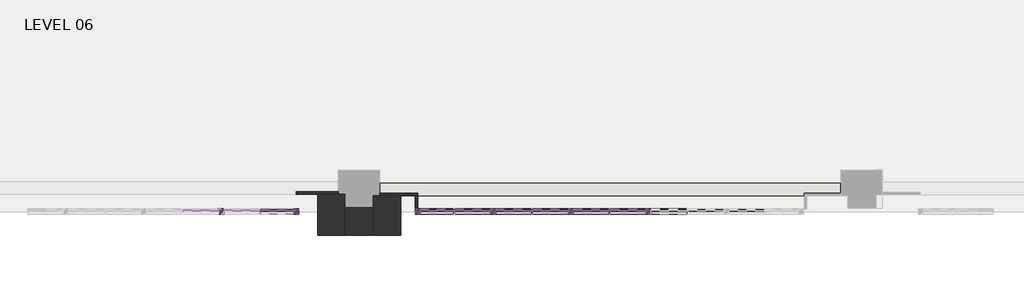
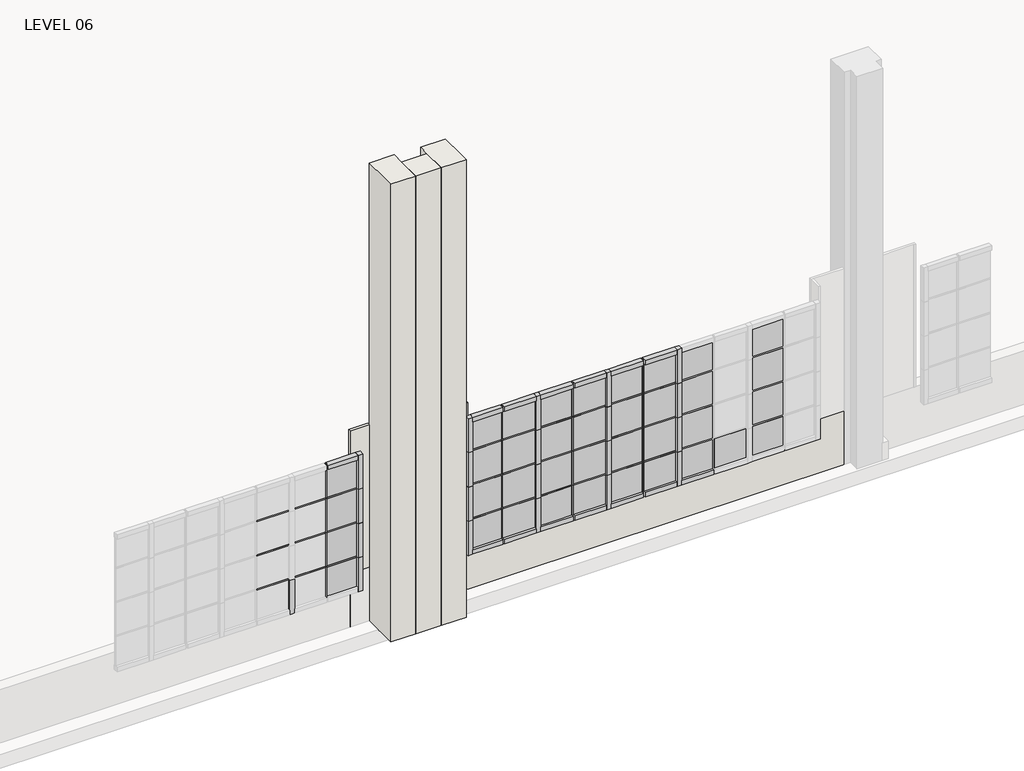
# One storey, part 4 of 16: 78 members, 37 plates, 7 walls.
"""IFC4 building model written with IfcOpenShell, lengths in millimetres."""

from ifc_helpers import new_model, si_unit, frame, origin, place, context, project, spatial, polyline, outline, extrude, faceted_brep, transform, mapped, element, save
from components import member_78bb2ef1, member_cb03ba1c, member_aa53491b, member_c1b5942e, member_9d26962d, member_378e0c06, member_17eb62f4, system_panel_glazed_79ade883, system_panel_glazed_12cc9f41, system_panel_glazed_730530c4, system_panel_glazed_b8d6571b

model = new_model("IFC4")

# Units and contexts
model_context = context("Model", 3, world=origin())
ifc_project = project(units=[si_unit("LENGTHUNIT", "METRE", prefix="MILLI")], contexts=[model_context])

# Site, building, storey
site = spatial("IfcSite", under=ifc_project)
building = spatial("IfcBuilding", under=site)
storey = spatial("IfcBuildingStorey", under=building, Name="LEVEL 06", Elevation=17449.8)

# Members
placement = place(None, origin())
member_shape = member_78bb2ef1(model_context)
element("IfcMember", 1, ObjectType="Rectangular Mullion : 1\" x 1\" - Butt Joint", at=placement, inside=storey, context=model_context, shape_type="MappedRepresentation", body=[
    mapped(member_shape, transform((-24218.0721217, -25119.8112062, 19989.8), x_axis=(1.0, 0.0, 0.0), y_axis=(0.0, -1.0, 0.0), z_axis=(0.0, 0.0, -1.0))),
])
element("IfcMember", 2, ObjectType="Rectangular Mullion : 1\" x 1\" - Butt Joint", at=placement, inside=storey, context=model_context, shape_type="MappedRepresentation", body=[
    mapped(member_shape, transform((-21377.1985758, -25119.8112062, 19989.8), x_axis=(1.0, 0.0, 0.0), y_axis=(0.0, -1.0, 0.0), z_axis=(0.0, 0.0, -1.0))),
])
element("IfcMember", 3, ObjectType="Rectangular Mullion : 1\" x 1\" - Butt Joint", at=placement, inside=storey, context=model_context, shape_type="MappedRepresentation", body=[
    mapped(member_shape, transform((-20239.2785758, -25119.8112062, 19989.8), x_axis=(1.0, 0.0, 0.0), y_axis=(0.0, -1.0, 0.0), z_axis=(0.0, 0.0, -1.0))),
])
element("IfcMember", 4, ObjectType="Rectangular Mullion : 1\" x 1\" - Butt Joint", at=placement, inside=storey, context=model_context, shape_type="MappedRepresentation", body=[
    mapped(member_shape, transform((-19101.3585758, -25119.8112062, 19989.8), x_axis=(1.0, 0.0, 0.0), y_axis=(0.0, -1.0, 0.0), z_axis=(0.0, 0.0, -1.0))),
])
member_2_shape = member_cb03ba1c(model_context)
element("IfcMember", 5, ObjectType="Rectangular Mullion : 1\" x 1\" - Butt Joint", at=placement, inside=storey, context=model_context, shape_type="MappedRepresentation", body=[
    mapped(member_2_shape, transform((-24825.1321217, -25119.8112062, 19989.8), x_axis=(0.0, 0.0, 1.0), y_axis=(0.0, -1.0, 0.0), z_axis=(1.0, 0.0, 0.0))),
])
element("IfcMember", 6, ObjectType="Rectangular Mullion : 1\" x 1\" - Butt Joint", at=placement, inside=storey, context=model_context, shape_type="MappedRepresentation", body=[
    mapped(member_2_shape, transform((-24230.7721217, -25119.8112062, 19989.8), x_axis=(0.0, 0.0, 1.0), y_axis=(0.0, -1.0, 0.0), z_axis=(1.0, 0.0, 0.0))),
])
element("IfcMember", 7, ObjectType="Rectangular Mullion : 1\" x 1\" - Butt Joint", at=placement, inside=storey, context=model_context, shape_type="MappedRepresentation", body=[
    mapped(member_2_shape, transform((-24825.1321217, -25119.8112062, 19405.6), x_axis=(0.0, 0.0, 1.0), y_axis=(0.0, -1.0, 0.0), z_axis=(1.0, 0.0, 0.0))),
])
element("IfcMember", 8, ObjectType="Rectangular Mullion : 1\" x 1\" - Butt Joint", at=placement, inside=storey, context=model_context, shape_type="MappedRepresentation", body=[
    mapped(member_2_shape, transform((-24230.7721217, -25119.8112062, 19405.6), x_axis=(0.0, 0.0, 1.0), y_axis=(0.0, -1.0, 0.0), z_axis=(1.0, 0.0, 0.0))),
])
element("IfcMember", 9, ObjectType="Rectangular Mullion : 1\" x 1\" - Butt Joint", at=placement, inside=storey, context=model_context, shape_type="MappedRepresentation", body=[
    mapped(member_2_shape, transform((-24825.1321217, -25119.8112062, 18821.4), x_axis=(0.0, 0.0, 1.0), y_axis=(0.0, -1.0, 0.0), z_axis=(1.0, 0.0, 0.0))),
])
element("IfcMember", 10, ObjectType="Rectangular Mullion : 1\" x 1\" - Butt Joint", at=placement, inside=storey, context=model_context, shape_type="MappedRepresentation", body=[
    mapped(member_2_shape, transform((-24230.7721217, -25119.8112062, 18821.4), x_axis=(0.0, 0.0, 1.0), y_axis=(0.0, -1.0, 0.0), z_axis=(1.0, 0.0, 0.0))),
])
element("IfcMember", 11, ObjectType="Rectangular Mullion : 1\" x 1\" - Butt Joint", at=placement, inside=storey, context=model_context, shape_type="MappedRepresentation", body=[
    mapped(member_2_shape, transform((-18570.4985758, -25119.8112062, 19989.8), x_axis=(0.0, 0.0, 1.0), y_axis=(0.0, -1.0, 0.0), z_axis=(1.0, 0.0, 0.0))),
])
element("IfcMember", 12, ObjectType="Rectangular Mullion : 1\" x 1\" - Butt Joint", at=placement, inside=storey, context=model_context, shape_type="MappedRepresentation", body=[
    mapped(member_2_shape, transform((-19708.4185758, -25119.8112062, 19989.8), x_axis=(0.0, 0.0, 1.0), y_axis=(0.0, -1.0, 0.0), z_axis=(1.0, 0.0, 0.0))),
])
element("IfcMember", 13, ObjectType="Rectangular Mullion : 1\" x 1\" - Butt Joint", at=placement, inside=storey, context=model_context, shape_type="MappedRepresentation", body=[
    mapped(member_2_shape, transform((-20846.3385758, -25119.8112062, 19989.8), x_axis=(0.0, 0.0, 1.0), y_axis=(0.0, -1.0, 0.0), z_axis=(1.0, 0.0, 0.0))),
])
element("IfcMember", 14, ObjectType="Rectangular Mullion : 1\" x 1\" - Butt Joint", at=placement, inside=storey, context=model_context, shape_type="MappedRepresentation", body=[
    mapped(member_2_shape, transform((-19114.0585758, -25119.8112062, 19989.8), x_axis=(0.0, 0.0, 1.0), y_axis=(0.0, -1.0, 0.0), z_axis=(1.0, 0.0, 0.0))),
])
element("IfcMember", 15, ObjectType="Rectangular Mullion : 1\" x 1\" - Butt Joint", at=placement, inside=storey, context=model_context, shape_type="MappedRepresentation", body=[
    mapped(member_2_shape, transform((-20251.9785758, -25119.8112062, 19989.8), x_axis=(0.0, 0.0, 1.0), y_axis=(0.0, -1.0, 0.0), z_axis=(1.0, 0.0, 0.0))),
])
element("IfcMember", 16, ObjectType="Rectangular Mullion : 1\" x 1\" - Butt Joint", at=placement, inside=storey, context=model_context, shape_type="MappedRepresentation", body=[
    mapped(member_2_shape, transform((-18570.4985758, -25119.8112062, 19405.6), x_axis=(0.0, 0.0, 1.0), y_axis=(0.0, -1.0, 0.0), z_axis=(1.0, 0.0, 0.0))),
])
element("IfcMember", 17, ObjectType="Rectangular Mullion : 1\" x 1\" - Butt Joint", at=placement, inside=storey, context=model_context, shape_type="MappedRepresentation", body=[
    mapped(member_2_shape, transform((-19708.4185758, -25119.8112062, 19405.6), x_axis=(0.0, 0.0, 1.0), y_axis=(0.0, -1.0, 0.0), z_axis=(1.0, 0.0, 0.0))),
])
element("IfcMember", 18, ObjectType="Rectangular Mullion : 1\" x 1\" - Butt Joint", at=placement, inside=storey, context=model_context, shape_type="MappedRepresentation", body=[
    mapped(member_2_shape, transform((-20846.3385758, -25119.8112062, 19405.6), x_axis=(0.0, 0.0, 1.0), y_axis=(0.0, -1.0, 0.0), z_axis=(1.0, 0.0, 0.0))),
])
element("IfcMember", 19, ObjectType="Rectangular Mullion : 1\" x 1\" - Butt Joint", at=placement, inside=storey, context=model_context, shape_type="MappedRepresentation", body=[
    mapped(member_2_shape, transform((-19114.0585758, -25119.8112062, 19405.6), x_axis=(0.0, 0.0, 1.0), y_axis=(0.0, -1.0, 0.0), z_axis=(1.0, 0.0, 0.0))),
])
element("IfcMember", 20, ObjectType="Rectangular Mullion : 1\" x 1\" - Butt Joint", at=placement, inside=storey, context=model_context, shape_type="MappedRepresentation", body=[
    mapped(member_2_shape, transform((-20251.9785758, -25119.8112062, 19405.6), x_axis=(0.0, 0.0, 1.0), y_axis=(0.0, -1.0, 0.0), z_axis=(1.0, 0.0, 0.0))),
])
element("IfcMember", 21, ObjectType="Rectangular Mullion : 1\" x 1\" - Butt Joint", at=placement, inside=storey, context=model_context, shape_type="MappedRepresentation", body=[
    mapped(member_2_shape, transform((-18570.4985758, -25119.8112062, 18821.4), x_axis=(0.0, 0.0, 1.0), y_axis=(0.0, -1.0, 0.0), z_axis=(1.0, 0.0, 0.0))),
])
element("IfcMember", 22, ObjectType="Rectangular Mullion : 1\" x 1\" - Butt Joint", at=placement, inside=storey, context=model_context, shape_type="MappedRepresentation", body=[
    mapped(member_2_shape, transform((-19708.4185758, -25119.8112062, 18821.4), x_axis=(0.0, 0.0, 1.0), y_axis=(0.0, -1.0, 0.0), z_axis=(1.0, 0.0, 0.0))),
])
element("IfcMember", 23, ObjectType="Rectangular Mullion : 1\" x 1\" - Butt Joint", at=placement, inside=storey, context=model_context, shape_type="MappedRepresentation", body=[
    mapped(member_2_shape, transform((-20846.3385758, -25119.8112062, 18821.4), x_axis=(0.0, 0.0, 1.0), y_axis=(0.0, -1.0, 0.0), z_axis=(1.0, 0.0, 0.0))),
])
element("IfcMember", 24, ObjectType="Rectangular Mullion : 1\" x 1\" - Butt Joint", at=placement, inside=storey, context=model_context, shape_type="MappedRepresentation", body=[
    mapped(member_2_shape, transform((-19114.0585758, -25119.8112062, 18821.4), x_axis=(0.0, 0.0, 1.0), y_axis=(0.0, -1.0, 0.0), z_axis=(1.0, 0.0, 0.0))),
])
element("IfcMember", 25, ObjectType="Rectangular Mullion : 1\" x 1\" - Butt Joint", at=placement, inside=storey, context=model_context, shape_type="MappedRepresentation", body=[
    mapped(member_2_shape, transform((-20251.9785758, -25119.8112062, 18821.4), x_axis=(0.0, 0.0, 1.0), y_axis=(0.0, -1.0, 0.0), z_axis=(1.0, 0.0, 0.0))),
])
member_3_shape = member_aa53491b(model_context)
element("IfcMember", 26, ObjectType="Rectangular Mullion : 1\" x 1\" - Butt Joint", at=placement, inside=storey, context=model_context, shape_type="MappedRepresentation", body=[
    mapped(member_3_shape, transform((-23725.3121217, -25119.8112062, 19989.8), x_axis=(0.0, 0.0, 1.0), y_axis=(0.0, -1.0, 0.0), z_axis=(1.0, 0.0, 0.0))),
])
element("IfcMember", 27, ObjectType="Rectangular Mullion : 1\" x 1\" - Butt Joint", at=placement, inside=storey, context=model_context, shape_type="MappedRepresentation", body=[
    mapped(member_3_shape, transform((-23725.3121217, -25119.8112062, 19405.6), x_axis=(0.0, 0.0, 1.0), y_axis=(0.0, -1.0, 0.0), z_axis=(1.0, 0.0, 0.0))),
])
element("IfcMember", 28, ObjectType="Rectangular Mullion : 1\" x 1\" - Butt Joint", at=placement, inside=storey, context=model_context, shape_type="MappedRepresentation", body=[
    mapped(member_3_shape, transform((-23725.3121217, -25119.8112062, 18821.4), x_axis=(0.0, 0.0, 1.0), y_axis=(0.0, -1.0, 0.0), z_axis=(1.0, 0.0, 0.0))),
])
element("IfcMember", 29, ObjectType="Rectangular Mullion : 1\" x 1\" - Butt Joint", at=placement, inside=storey, context=model_context, shape_type="MappedRepresentation", body=[
    mapped(member_3_shape, transform((-21389.8985758, -25119.8112062, 19989.8), x_axis=(0.0, 0.0, 1.0), y_axis=(0.0, -1.0, 0.0), z_axis=(1.0, 0.0, 0.0))),
])
element("IfcMember", 30, ObjectType="Rectangular Mullion : 1\" x 1\" - Butt Joint", at=placement, inside=storey, context=model_context, shape_type="MappedRepresentation", body=[
    mapped(member_3_shape, transform((-21389.8985758, -25119.8112062, 19405.6), x_axis=(0.0, 0.0, 1.0), y_axis=(0.0, -1.0, 0.0), z_axis=(1.0, 0.0, 0.0))),
])
element("IfcMember", 31, ObjectType="Rectangular Mullion : 1\" x 1\" - Butt Joint", at=placement, inside=storey, context=model_context, shape_type="MappedRepresentation", body=[
    mapped(member_3_shape, transform((-21389.8985758, -25119.8112062, 18821.4), x_axis=(0.0, 0.0, 1.0), y_axis=(0.0, -1.0, 0.0), z_axis=(1.0, 0.0, 0.0))),
])
element("IfcMember", 32, ObjectType="Rectangular Mullion : 1\" x 1\" - Butt Joint", at=placement, inside=storey, context=model_context, shape_type="MappedRepresentation", body=[
    mapped(member_shape, transform((-24218.0721217, -25119.8112062, 19405.6), x_axis=(1.0, 0.0, 0.0), y_axis=(0.0, -1.0, 0.0), z_axis=(0.0, 0.0, -1.0))),
])
element("IfcMember", 33, ObjectType="Rectangular Mullion : 1\" x 1\" - Butt Joint", at=placement, inside=storey, context=model_context, shape_type="MappedRepresentation", body=[
    mapped(member_shape, transform((-24218.0721217, -25119.8112062, 18821.4), x_axis=(1.0, 0.0, 0.0), y_axis=(0.0, -1.0, 0.0), z_axis=(0.0, 0.0, -1.0))),
])
element("IfcMember", 34, ObjectType="Rectangular Mullion : 1\" x 1\" - Butt Joint", at=placement, inside=storey, context=model_context, shape_type="MappedRepresentation", body=[
    mapped(member_shape, transform((-21377.1985758, -25119.8112062, 19405.6), x_axis=(1.0, 0.0, 0.0), y_axis=(0.0, -1.0, 0.0), z_axis=(0.0, 0.0, -1.0))),
])
element("IfcMember", 35, ObjectType="Rectangular Mullion : 1\" x 1\" - Butt Joint", at=placement, inside=storey, context=model_context, shape_type="MappedRepresentation", body=[
    mapped(member_shape, transform((-21377.1985758, -25119.8112062, 18821.4), x_axis=(1.0, 0.0, 0.0), y_axis=(0.0, -1.0, 0.0), z_axis=(0.0, 0.0, -1.0))),
])
element("IfcMember", 36, ObjectType="Rectangular Mullion : 1\" x 1\" - Butt Joint", at=placement, inside=storey, context=model_context, shape_type="MappedRepresentation", body=[
    mapped(member_shape, transform((-20239.2785758, -25119.8112062, 19405.6), x_axis=(1.0, 0.0, 0.0), y_axis=(0.0, -1.0, 0.0), z_axis=(0.0, 0.0, -1.0))),
])
element("IfcMember", 37, ObjectType="Rectangular Mullion : 1\" x 1\" - Butt Joint", at=placement, inside=storey, context=model_context, shape_type="MappedRepresentation", body=[
    mapped(member_shape, transform((-20239.2785758, -25119.8112062, 18821.4), x_axis=(1.0, 0.0, 0.0), y_axis=(0.0, -1.0, 0.0), z_axis=(0.0, 0.0, -1.0))),
])
element("IfcMember", 38, ObjectType="Rectangular Mullion : 1\" x 1\" - Butt Joint", at=placement, inside=storey, context=model_context, shape_type="MappedRepresentation", body=[
    mapped(member_shape, transform((-19101.3585758, -25119.8112062, 19405.6), x_axis=(1.0, 0.0, 0.0), y_axis=(0.0, -1.0, 0.0), z_axis=(0.0, 0.0, -1.0))),
])
element("IfcMember", 39, ObjectType="Rectangular Mullion : 1\" x 1\" - Butt Joint", at=placement, inside=storey, context=model_context, shape_type="MappedRepresentation", body=[
    mapped(member_shape, transform((-19101.3585758, -25119.8112062, 18821.4), x_axis=(1.0, 0.0, 0.0), y_axis=(0.0, -1.0, 0.0), z_axis=(0.0, 0.0, -1.0))),
])
element("IfcMember", 40, ObjectType="Rectangular Mullion : 1\" x 1\" - Butt Joint", at=placement, inside=storey, context=model_context, shape_type="MappedRepresentation", body=[
    mapped(member_shape, transform((-24218.0721217, -25119.8112062, 18237.2), x_axis=(1.0, 0.0, 0.0), y_axis=(0.0, -1.0, 0.0), z_axis=(0.0, 0.0, -1.0))),
])
element("IfcMember", 41, ObjectType="Rectangular Mullion : 1\" x 1\" - Butt Joint", at=placement, inside=storey, context=model_context, shape_type="MappedRepresentation", body=[
    mapped(member_shape, transform((-21377.1985758, -25119.8112062, 18237.2), x_axis=(1.0, 0.0, 0.0), y_axis=(0.0, -1.0, 0.0), z_axis=(0.0, 0.0, -1.0))),
])
element("IfcMember", 42, ObjectType="Rectangular Mullion : 1\" x 1\" - Butt Joint", at=placement, inside=storey, context=model_context, shape_type="MappedRepresentation", body=[
    mapped(member_shape, transform((-20239.2785758, -25119.8112062, 18237.2), x_axis=(1.0, 0.0, 0.0), y_axis=(0.0, -1.0, 0.0), z_axis=(0.0, 0.0, -1.0))),
])
element("IfcMember", 43, ObjectType="Rectangular Mullion : 1\" x 1\" - Butt Joint", at=placement, inside=storey, context=model_context, shape_type="MappedRepresentation", body=[
    mapped(member_shape, transform((-19101.3585758, -25119.8112062, 18237.2), x_axis=(1.0, 0.0, 0.0), y_axis=(0.0, -1.0, 0.0), z_axis=(0.0, 0.0, -1.0))),
])
member_4_shape = member_c1b5942e(model_context)
element("IfcMember", 44, ObjectType="Rectangular Mullion : 3\" x 3\" Window Jamb", at=placement, inside=storey, context=model_context, shape_type="MappedRepresentation", body=[
    mapped(member_4_shape, transform((-19088.6585758, -25119.8112062, 18237.2), x_axis=(0.0, 0.0, -1.0), y_axis=(0.0, -1.0, 0.0), z_axis=(-1.0, 0.0, 0.0))),
])
element("IfcMember", 45, ObjectType="Rectangular Mullion : 3\" x 3\" Window Jamb", at=placement, inside=storey, context=model_context, shape_type="MappedRepresentation", body=[
    mapped(member_4_shape, transform((-20226.5785758, -25119.8112062, 18237.2), x_axis=(0.0, 0.0, -1.0), y_axis=(0.0, -1.0, 0.0), z_axis=(-1.0, 0.0, 0.0))),
])
element("IfcMember", 46, ObjectType="Rectangular Mullion : 3\" x 3\" Window Jamb", at=placement, inside=storey, context=model_context, shape_type="MappedRepresentation", body=[
    mapped(member_4_shape, transform((-21364.4985758, -25119.8112062, 18237.2), x_axis=(0.0, 0.0, -1.0), y_axis=(0.0, -1.0, 0.0), z_axis=(-1.0, 0.0, 0.0))),
])
element("IfcMember", 47, ObjectType="Rectangular Mullion : 3\" x 3\" Window Jamb", at=placement, inside=storey, context=model_context, shape_type="MappedRepresentation", body=[
    mapped(member_4_shape, transform((-18494.2985758, -25119.8112062, 18237.2), x_axis=(0.0, 0.0, -1.0), y_axis=(0.0, -1.0, 0.0), z_axis=(-1.0, 0.0, 0.0))),
])
element("IfcMember", 48, ObjectType="Rectangular Mullion : 3\" x 3\" Window Jamb", at=placement, inside=storey, context=model_context, shape_type="MappedRepresentation", body=[
    mapped(member_4_shape, transform((-19632.2185758, -25119.8112062, 18237.2), x_axis=(0.0, 0.0, -1.0), y_axis=(0.0, -1.0, 0.0), z_axis=(-1.0, 0.0, 0.0))),
])
element("IfcMember", 49, ObjectType="Rectangular Mullion : 3\" x 3\" Window Jamb", at=placement, inside=storey, context=model_context, shape_type="MappedRepresentation", body=[
    mapped(member_4_shape, transform((-20770.1385758, -25119.8112062, 18237.2), x_axis=(0.0, 0.0, -1.0), y_axis=(0.0, -1.0, 0.0), z_axis=(-1.0, 0.0, 0.0))),
])
member_5_shape = member_9d26962d(model_context)
element("IfcMember", 50, ObjectType="Rectangular Mullion : 3\" x 3\" Window Jamb", at=placement, inside=storey, context=model_context, shape_type="MappedRepresentation", body=[
    mapped(member_5_shape, transform((-21869.9585758, -25119.8112062, 18237.2), x_axis=(0.0, 0.0, -1.0), y_axis=(0.0, -1.0, 0.0), z_axis=(-1.0, 0.0, 0.0))),
])
element("IfcMember", 51, ObjectType="Rectangular Mullion : 3\" x 3\" Window Jamb", at=placement, inside=storey, context=model_context, shape_type="MappedRepresentation", body=[
    mapped(member_5_shape, transform((-23725.3121217, -25119.8112062, 20574.0), x_axis=(0.0, 0.0, 1.0), y_axis=(0.0, -1.0, 0.0), z_axis=(1.0, 0.0, 0.0))),
])
element("IfcMember", 52, ObjectType="Rectangular Mullion : 3\" x 3\" Window Jamb", at=placement, inside=storey, context=model_context, shape_type="MappedRepresentation", body=[
    mapped(member_5_shape, transform((-21389.8985758, -25119.8112062, 20574.0), x_axis=(0.0, 0.0, 1.0), y_axis=(0.0, -1.0, 0.0), z_axis=(1.0, 0.0, 0.0))),
])
element("IfcMember", 53, ObjectType="Rectangular Mullion : 3\" x 3\" Window Jamb", at=placement, inside=storey, context=model_context, shape_type="MappedRepresentation", body=[
    mapped(member_4_shape, transform((-19114.0585758, -25119.8112062, 20574.0), x_axis=(0.0, 0.0, 1.0), y_axis=(0.0, -1.0, 0.0), z_axis=(1.0, 0.0, 0.0))),
])
element("IfcMember", 54, ObjectType="Rectangular Mullion : 3\" x 3\" Window Jamb", at=placement, inside=storey, context=model_context, shape_type="MappedRepresentation", body=[
    mapped(member_4_shape, transform((-20251.9785758, -25119.8112062, 20574.0), x_axis=(0.0, 0.0, 1.0), y_axis=(0.0, -1.0, 0.0), z_axis=(1.0, 0.0, 0.0))),
])
element("IfcMember", 55, ObjectType="Rectangular Mullion : 3\" x 3\" Window Jamb", at=placement, inside=storey, context=model_context, shape_type="MappedRepresentation", body=[
    mapped(member_4_shape, transform((-18570.4985758, -25119.8112062, 20574.0), x_axis=(0.0, 0.0, 1.0), y_axis=(0.0, -1.0, 0.0), z_axis=(1.0, 0.0, 0.0))),
])
element("IfcMember", 56, ObjectType="Rectangular Mullion : 3\" x 3\" Window Jamb", at=placement, inside=storey, context=model_context, shape_type="MappedRepresentation", body=[
    mapped(member_4_shape, transform((-19708.4185758, -25119.8112062, 20574.0), x_axis=(0.0, 0.0, 1.0), y_axis=(0.0, -1.0, 0.0), z_axis=(1.0, 0.0, 0.0))),
])
element("IfcMember", 57, ObjectType="Rectangular Mullion : 3\" x 3\" Window Jamb", at=placement, inside=storey, context=model_context, shape_type="MappedRepresentation", body=[
    mapped(member_4_shape, transform((-20846.3385758, -25119.8112062, 20574.0), x_axis=(0.0, 0.0, 1.0), y_axis=(0.0, -1.0, 0.0), z_axis=(1.0, 0.0, 0.0))),
])
member_6_shape = member_378e0c06(model_context)
element("IfcMember", 58, ObjectType="Rectangular Mullion : 3\" x 3\" Window Jamb", at=placement, inside=storey, context=model_context, shape_type="MappedRepresentation", body=[
    mapped(member_6_shape, transform((-20808.2385758, -25119.8112062, 19989.8), x_axis=(1.0, 0.0, 0.0), y_axis=(0.0, -1.0, 0.0), z_axis=(0.0, 0.0, -1.0))),
])
element("IfcMember", 59, ObjectType="Rectangular Mullion : 3\" x 3\" Window Jamb", at=placement, inside=storey, context=model_context, shape_type="MappedRepresentation", body=[
    mapped(member_6_shape, transform((-19670.3185758, -25119.8112062, 19989.8), x_axis=(1.0, 0.0, 0.0), y_axis=(0.0, -1.0, 0.0), z_axis=(0.0, 0.0, -1.0))),
])
element("IfcMember", 60, ObjectType="Rectangular Mullion : 3\" x 3\" Window Jamb", at=placement, inside=storey, context=model_context, shape_type="MappedRepresentation", body=[
    mapped(member_6_shape, transform((-18532.3985758, -25119.8112062, 19989.8), x_axis=(1.0, 0.0, 0.0), y_axis=(0.0, -1.0, 0.0), z_axis=(0.0, 0.0, -1.0))),
])
member_7_shape = member_17eb62f4(model_context)
element("IfcMember", 61, ObjectType="Rectangular Mullion : 3\" x 3\" Window Jamb", at=placement, inside=storey, context=model_context, shape_type="MappedRepresentation", body=[
    mapped(member_7_shape, transform((-23649.1121217, -25119.8112062, 19989.8), x_axis=(1.0, 0.0, 0.0), y_axis=(0.0, -1.0, 0.0), z_axis=(0.0, 0.0, -1.0))),
])
element("IfcMember", 62, ObjectType="Rectangular Mullion : 3\" x 3\" Window Jamb", at=placement, inside=storey, context=model_context, shape_type="MappedRepresentation", body=[
    mapped(member_7_shape, transform((-21946.1585758, -25119.8112062, 20574.0), x_axis=(-1.0, 0.0, 0.0), y_axis=(0.0, -1.0, 0.0), z_axis=(0.0, 0.0, 1.0))),
])
element("IfcMember", 63, ObjectType="Rectangular Mullion : 3\" x 3\" Window Jamb", at=placement, inside=storey, context=model_context, shape_type="MappedRepresentation", body=[
    mapped(member_6_shape, transform((-20808.2385758, -25119.8112062, 19405.6), x_axis=(1.0, 0.0, 0.0), y_axis=(0.0, -1.0, 0.0), z_axis=(0.0, 0.0, -1.0))),
])
element("IfcMember", 64, ObjectType="Rectangular Mullion : 3\" x 3\" Window Jamb", at=placement, inside=storey, context=model_context, shape_type="MappedRepresentation", body=[
    mapped(member_6_shape, transform((-20808.2385758, -25119.8112062, 18821.4), x_axis=(1.0, 0.0, 0.0), y_axis=(0.0, -1.0, 0.0), z_axis=(0.0, 0.0, -1.0))),
])
element("IfcMember", 65, ObjectType="Rectangular Mullion : 3\" x 3\" Window Jamb", at=placement, inside=storey, context=model_context, shape_type="MappedRepresentation", body=[
    mapped(member_6_shape, transform((-19670.3185758, -25119.8112062, 19405.6), x_axis=(1.0, 0.0, 0.0), y_axis=(0.0, -1.0, 0.0), z_axis=(0.0, 0.0, -1.0))),
])
element("IfcMember", 66, ObjectType="Rectangular Mullion : 3\" x 3\" Window Jamb", at=placement, inside=storey, context=model_context, shape_type="MappedRepresentation", body=[
    mapped(member_6_shape, transform((-19670.3185758, -25119.8112062, 18821.4), x_axis=(1.0, 0.0, 0.0), y_axis=(0.0, -1.0, 0.0), z_axis=(0.0, 0.0, -1.0))),
])
element("IfcMember", 67, ObjectType="Rectangular Mullion : 3\" x 3\" Window Jamb", at=placement, inside=storey, context=model_context, shape_type="MappedRepresentation", body=[
    mapped(member_6_shape, transform((-18532.3985758, -25119.8112062, 19405.6), x_axis=(1.0, 0.0, 0.0), y_axis=(0.0, -1.0, 0.0), z_axis=(0.0, 0.0, -1.0))),
])
element("IfcMember", 68, ObjectType="Rectangular Mullion : 3\" x 3\" Window Jamb", at=placement, inside=storey, context=model_context, shape_type="MappedRepresentation", body=[
    mapped(member_6_shape, transform((-18532.3985758, -25119.8112062, 18821.4), x_axis=(1.0, 0.0, 0.0), y_axis=(0.0, -1.0, 0.0), z_axis=(0.0, 0.0, -1.0))),
])
element("IfcMember", 69, ObjectType="Rectangular Mullion : 3\" x 3\" Window Jamb", at=placement, inside=storey, context=model_context, shape_type="MappedRepresentation", body=[
    mapped(member_7_shape, transform((-23649.1121217, -25119.8112062, 19405.6), x_axis=(1.0, 0.0, 0.0), y_axis=(0.0, -1.0, 0.0), z_axis=(0.0, 0.0, -1.0))),
])
element("IfcMember", 70, ObjectType="Rectangular Mullion : 3\" x 3\" Window Jamb", at=placement, inside=storey, context=model_context, shape_type="MappedRepresentation", body=[
    mapped(member_7_shape, transform((-23649.1121217, -25119.8112062, 18821.4), x_axis=(1.0, 0.0, 0.0), y_axis=(0.0, -1.0, 0.0), z_axis=(0.0, 0.0, -1.0))),
])
element("IfcMember", 71, ObjectType="Rectangular Mullion : 3\" x 3\" Window Jamb", at=placement, inside=storey, context=model_context, shape_type="MappedRepresentation", body=[
    mapped(member_7_shape, transform((-21946.1585758, -25119.8112062, 19989.8), x_axis=(-1.0, 0.0, 0.0), y_axis=(0.0, -1.0, 0.0), z_axis=(0.0, 0.0, 1.0))),
])
element("IfcMember", 72, ObjectType="Rectangular Mullion : 3\" x 3\" Window Jamb", at=placement, inside=storey, context=model_context, shape_type="MappedRepresentation", body=[
    mapped(member_7_shape, transform((-21946.1585758, -25119.8112062, 19405.6), x_axis=(-1.0, 0.0, 0.0), y_axis=(0.0, -1.0, 0.0), z_axis=(0.0, 0.0, 1.0))),
])
element("IfcMember", 73, ObjectType="Rectangular Mullion : 3\" x 3\" Window Jamb", at=placement, inside=storey, context=model_context, shape_type="MappedRepresentation", body=[
    mapped(member_6_shape, transform((-24787.0321217, -25119.8112062, 18237.2), x_axis=(1.0, 0.0, 0.0), y_axis=(0.0, -1.0, 0.0), z_axis=(0.0, 0.0, -1.0))),
])
element("IfcMember", 74, ObjectType="Rectangular Mullion : 3\" x 3\" Window Jamb", at=placement, inside=storey, context=model_context, shape_type="MappedRepresentation", body=[
    mapped(member_6_shape, transform((-20808.2385758, -25119.8112062, 18237.2), x_axis=(1.0, 0.0, 0.0), y_axis=(0.0, -1.0, 0.0), z_axis=(0.0, 0.0, -1.0))),
])
element("IfcMember", 75, ObjectType="Rectangular Mullion : 3\" x 3\" Window Jamb", at=placement, inside=storey, context=model_context, shape_type="MappedRepresentation", body=[
    mapped(member_6_shape, transform((-19670.3185758, -25119.8112062, 18237.2), x_axis=(1.0, 0.0, 0.0), y_axis=(0.0, -1.0, 0.0), z_axis=(0.0, 0.0, -1.0))),
])
element("IfcMember", 76, ObjectType="Rectangular Mullion : 3\" x 3\" Window Jamb", at=placement, inside=storey, context=model_context, shape_type="MappedRepresentation", body=[
    mapped(member_6_shape, transform((-18532.3985758, -25119.8112062, 18237.2), x_axis=(1.0, 0.0, 0.0), y_axis=(0.0, -1.0, 0.0), z_axis=(0.0, 0.0, -1.0))),
])
element("IfcMember", 77, ObjectType="Rectangular Mullion : 3\" x 3\" Window Jamb", at=placement, inside=storey, context=model_context, shape_type="MappedRepresentation", body=[
    mapped(member_7_shape, transform((-23649.1121217, -25119.8112062, 18237.2), x_axis=(1.0, 0.0, 0.0), y_axis=(0.0, -1.0, 0.0), z_axis=(0.0, 0.0, -1.0))),
])
element("IfcMember", 78, ObjectType="Rectangular Mullion : 3\" x 3\" Window Jamb", at=placement, inside=storey, context=model_context, shape_type="MappedRepresentation", body=[
    mapped(member_7_shape, transform((-21946.1585758, -25119.8112062, 18821.4), x_axis=(-1.0, 0.0, 0.0), y_axis=(0.0, -1.0, 0.0), z_axis=(0.0, 0.0, 1.0))),
])

# Plates
system_panel_glazed_shape = system_panel_glazed_79ade883(model_context)
element("IfcPlate", 79, ObjectType="System Panel : Glazed", at=placement, inside=storey, context=model_context, shape_type="MappedRepresentation", body=[
    mapped(system_panel_glazed_shape, transform((-23965.3421217, -25119.8112062, 18313.4), x_axis=(1.0, 0.0, 0.0), y_axis=(0.0, 1.0, 0.0), z_axis=(0.0, 0.0, 1.0))),
])
element("IfcPlate", 80, ObjectType="System Panel : Glazed", at=placement, inside=storey, context=model_context, shape_type="MappedRepresentation", body=[
    mapped(system_panel_glazed_shape, transform((-23965.3421217, -25119.8112062, 20002.5), x_axis=(1.0, 0.0, 0.0), y_axis=(0.0, 1.0, 0.0), z_axis=(0.0, 0.0, 1.0))),
])
element("IfcPlate", 81, ObjectType="System Panel : Glazed", at=placement, inside=storey, context=model_context, shape_type="MappedRepresentation", body=[
    mapped(system_panel_glazed_shape, transform((-21629.9285758, -25119.8112062, 18313.4), x_axis=(1.0, 0.0, 0.0), y_axis=(0.0, 1.0, 0.0), z_axis=(0.0, 0.0, 1.0))),
])
element("IfcPlate", 82, ObjectType="System Panel : Glazed", at=placement, inside=storey, context=model_context, shape_type="MappedRepresentation", body=[
    mapped(system_panel_glazed_shape, transform((-21629.9285758, -25119.8112062, 20002.5), x_axis=(1.0, 0.0, 0.0), y_axis=(0.0, 1.0, 0.0), z_axis=(0.0, 0.0, 1.0))),
])
system_panel_glazed_2_shape = system_panel_glazed_12cc9f41(model_context)
element("IfcPlate", 83, ObjectType="System Panel : Glazed", at=placement, inside=storey, context=model_context, shape_type="MappedRepresentation", body=[
    mapped(system_panel_glazed_2_shape, transform((-20511.0585758, -25119.8112062, 18313.4), x_axis=(1.0, 0.0, 0.0), y_axis=(0.0, 1.0, 0.0), z_axis=(0.0, 0.0, 1.0))),
])
element("IfcPlate", 84, ObjectType="System Panel : Glazed", at=placement, inside=storey, context=model_context, shape_type="MappedRepresentation", body=[
    mapped(system_panel_glazed_2_shape, transform((-19373.1385758, -25119.8112062, 18313.4), x_axis=(1.0, 0.0, 0.0), y_axis=(0.0, 1.0, 0.0), z_axis=(0.0, 0.0, 1.0))),
])
element("IfcPlate", 85, ObjectType="System Panel : Glazed", at=placement, inside=storey, context=model_context, shape_type="MappedRepresentation", body=[
    mapped(system_panel_glazed_2_shape, transform((-18235.2185758, -25119.8112062, 18313.4), x_axis=(1.0, 0.0, 0.0), y_axis=(0.0, 1.0, 0.0), z_axis=(0.0, 0.0, 1.0))),
])
element("IfcPlate", 86, ObjectType="System Panel : Glazed", at=placement, inside=storey, context=model_context, shape_type="MappedRepresentation", body=[
    mapped(system_panel_glazed_2_shape, transform((-17097.2985758, -25119.8112062, 18313.4), x_axis=(1.0, 0.0, 0.0), y_axis=(0.0, 1.0, 0.0), z_axis=(0.0, 0.0, 1.0))),
])
element("IfcPlate", 87, ObjectType="System Panel : Glazed", at=placement, inside=storey, context=model_context, shape_type="MappedRepresentation", body=[
    mapped(system_panel_glazed_2_shape, transform((-20511.0585758, -25119.8112062, 20002.5), x_axis=(1.0, 0.0, 0.0), y_axis=(0.0, 1.0, 0.0), z_axis=(0.0, 0.0, 1.0))),
])
element("IfcPlate", 88, ObjectType="System Panel : Glazed", at=placement, inside=storey, context=model_context, shape_type="MappedRepresentation", body=[
    mapped(system_panel_glazed_2_shape, transform((-19373.1385758, -25119.8112062, 20002.5), x_axis=(1.0, 0.0, 0.0), y_axis=(0.0, 1.0, 0.0), z_axis=(0.0, 0.0, 1.0))),
])
element("IfcPlate", 89, ObjectType="System Panel : Glazed", at=placement, inside=storey, context=model_context, shape_type="MappedRepresentation", body=[
    mapped(system_panel_glazed_2_shape, transform((-18235.2185758, -25119.8112062, 20002.5), x_axis=(1.0, 0.0, 0.0), y_axis=(0.0, 1.0, 0.0), z_axis=(0.0, 0.0, 1.0))),
])
element("IfcPlate", 90, ObjectType="System Panel : Glazed", at=placement, inside=storey, context=model_context, shape_type="MappedRepresentation", body=[
    mapped(system_panel_glazed_2_shape, transform((-17097.2985758, -25119.8112062, 20002.5), x_axis=(1.0, 0.0, 0.0), y_axis=(0.0, 1.0, 0.0), z_axis=(0.0, 0.0, 1.0))),
])
element("IfcPlate", 91, ObjectType="System Panel : Glazed", at=placement, inside=storey, context=model_context, shape_type="MappedRepresentation", body=[
    mapped(system_panel_glazed_2_shape, transform((-21105.4185758, -25119.8112062, 18313.4), x_axis=(1.0, 0.0, 0.0), y_axis=(0.0, 1.0, 0.0), z_axis=(0.0, 0.0, 1.0))),
])
element("IfcPlate", 92, ObjectType="System Panel : Glazed", at=placement, inside=storey, context=model_context, shape_type="MappedRepresentation", body=[
    mapped(system_panel_glazed_2_shape, transform((-21105.4185758, -25119.8112062, 20002.5), x_axis=(1.0, 0.0, 0.0), y_axis=(0.0, 1.0, 0.0), z_axis=(0.0, 0.0, 1.0))),
])
element("IfcPlate", 93, ObjectType="System Panel : Glazed", at=placement, inside=storey, context=model_context, shape_type="MappedRepresentation", body=[
    mapped(system_panel_glazed_2_shape, transform((-19967.4985758, -25119.8112062, 18313.4), x_axis=(1.0, 0.0, 0.0), y_axis=(0.0, 1.0, 0.0), z_axis=(0.0, 0.0, 1.0))),
])
element("IfcPlate", 94, ObjectType="System Panel : Glazed", at=placement, inside=storey, context=model_context, shape_type="MappedRepresentation", body=[
    mapped(system_panel_glazed_2_shape, transform((-19967.4985758, -25119.8112062, 20002.5), x_axis=(1.0, 0.0, 0.0), y_axis=(0.0, 1.0, 0.0), z_axis=(0.0, 0.0, 1.0))),
])
element("IfcPlate", 95, ObjectType="System Panel : Glazed", at=placement, inside=storey, context=model_context, shape_type="MappedRepresentation", body=[
    mapped(system_panel_glazed_2_shape, transform((-18829.5785758, -25119.8112062, 18313.4), x_axis=(1.0, 0.0, 0.0), y_axis=(0.0, 1.0, 0.0), z_axis=(0.0, 0.0, 1.0))),
])
element("IfcPlate", 96, ObjectType="System Panel : Glazed", at=placement, inside=storey, context=model_context, shape_type="MappedRepresentation", body=[
    mapped(system_panel_glazed_2_shape, transform((-18829.5785758, -25119.8112062, 20002.5), x_axis=(1.0, 0.0, 0.0), y_axis=(0.0, 1.0, 0.0), z_axis=(0.0, 0.0, 1.0))),
])
element("IfcPlate", 97, ObjectType="System Panel : Glazed", at=placement, inside=storey, context=model_context, shape_type="MappedRepresentation", body=[
    mapped(system_panel_glazed_2_shape, transform((-17691.6585758, -25119.8112062, 18313.4), x_axis=(1.0, 0.0, 0.0), y_axis=(0.0, 1.0, 0.0), z_axis=(0.0, 0.0, 1.0))),
])
system_panel_glazed_3_shape = system_panel_glazed_730530c4(model_context)
element("IfcPlate", 98, ObjectType="System Panel : Glazed", at=placement, inside=storey, context=model_context, shape_type="MappedRepresentation", body=[
    mapped(system_panel_glazed_3_shape, transform((-23965.3421217, -25119.8112062, 18834.1), x_axis=(1.0, 0.0, 0.0), y_axis=(0.0, 1.0, 0.0), z_axis=(0.0, 0.0, 1.0))),
])
element("IfcPlate", 99, ObjectType="System Panel : Glazed", at=placement, inside=storey, context=model_context, shape_type="MappedRepresentation", body=[
    mapped(system_panel_glazed_3_shape, transform((-23965.3421217, -25119.8112062, 19418.3), x_axis=(1.0, 0.0, 0.0), y_axis=(0.0, 1.0, 0.0), z_axis=(0.0, 0.0, 1.0))),
])
element("IfcPlate", 100, ObjectType="System Panel : Glazed", at=placement, inside=storey, context=model_context, shape_type="MappedRepresentation", body=[
    mapped(system_panel_glazed_3_shape, transform((-21629.9285758, -25119.8112062, 18834.1), x_axis=(1.0, 0.0, 0.0), y_axis=(0.0, 1.0, 0.0), z_axis=(0.0, 0.0, 1.0))),
])
element("IfcPlate", 101, ObjectType="System Panel : Glazed", at=placement, inside=storey, context=model_context, shape_type="MappedRepresentation", body=[
    mapped(system_panel_glazed_3_shape, transform((-21629.9285758, -25119.8112062, 19418.3), x_axis=(1.0, 0.0, 0.0), y_axis=(0.0, 1.0, 0.0), z_axis=(0.0, 0.0, 1.0))),
])
system_panel_glazed_4_shape = system_panel_glazed_b8d6571b(model_context)
element("IfcPlate", 102, ObjectType="System Panel : Glazed", at=placement, inside=storey, context=model_context, shape_type="MappedRepresentation", body=[
    mapped(system_panel_glazed_4_shape, transform((-20511.0585758, -25119.8112062, 18834.1), x_axis=(1.0, 0.0, 0.0), y_axis=(0.0, 1.0, 0.0), z_axis=(0.0, 0.0, 1.0))),
])
element("IfcPlate", 103, ObjectType="System Panel : Glazed", at=placement, inside=storey, context=model_context, shape_type="MappedRepresentation", body=[
    mapped(system_panel_glazed_4_shape, transform((-19373.1385758, -25119.8112062, 18834.1), x_axis=(1.0, 0.0, 0.0), y_axis=(0.0, 1.0, 0.0), z_axis=(0.0, 0.0, 1.0))),
])
element("IfcPlate", 104, ObjectType="System Panel : Glazed", at=placement, inside=storey, context=model_context, shape_type="MappedRepresentation", body=[
    mapped(system_panel_glazed_4_shape, transform((-18235.2185758, -25119.8112062, 18834.1), x_axis=(1.0, 0.0, 0.0), y_axis=(0.0, 1.0, 0.0), z_axis=(0.0, 0.0, 1.0))),
])
element("IfcPlate", 105, ObjectType="System Panel : Glazed", at=placement, inside=storey, context=model_context, shape_type="MappedRepresentation", body=[
    mapped(system_panel_glazed_4_shape, transform((-17097.2985758, -25119.8112062, 18834.1), x_axis=(1.0, 0.0, 0.0), y_axis=(0.0, 1.0, 0.0), z_axis=(0.0, 0.0, 1.0))),
])
element("IfcPlate", 106, ObjectType="System Panel : Glazed", at=placement, inside=storey, context=model_context, shape_type="MappedRepresentation", body=[
    mapped(system_panel_glazed_4_shape, transform((-20511.0585758, -25119.8112062, 19418.3), x_axis=(1.0, 0.0, 0.0), y_axis=(0.0, 1.0, 0.0), z_axis=(0.0, 0.0, 1.0))),
])
element("IfcPlate", 107, ObjectType="System Panel : Glazed", at=placement, inside=storey, context=model_context, shape_type="MappedRepresentation", body=[
    mapped(system_panel_glazed_4_shape, transform((-19373.1385758, -25119.8112062, 19418.3), x_axis=(1.0, 0.0, 0.0), y_axis=(0.0, 1.0, 0.0), z_axis=(0.0, 0.0, 1.0))),
])
element("IfcPlate", 108, ObjectType="System Panel : Glazed", at=placement, inside=storey, context=model_context, shape_type="MappedRepresentation", body=[
    mapped(system_panel_glazed_4_shape, transform((-18235.2185758, -25119.8112062, 19418.3), x_axis=(1.0, 0.0, 0.0), y_axis=(0.0, 1.0, 0.0), z_axis=(0.0, 0.0, 1.0))),
])
element("IfcPlate", 109, ObjectType="System Panel : Glazed", at=placement, inside=storey, context=model_context, shape_type="MappedRepresentation", body=[
    mapped(system_panel_glazed_4_shape, transform((-17097.2985758, -25119.8112062, 19418.3), x_axis=(1.0, 0.0, 0.0), y_axis=(0.0, 1.0, 0.0), z_axis=(0.0, 0.0, 1.0))),
])
element("IfcPlate", 110, ObjectType="System Panel : Glazed", at=placement, inside=storey, context=model_context, shape_type="MappedRepresentation", body=[
    mapped(system_panel_glazed_4_shape, transform((-21105.4185758, -25119.8112062, 18834.1), x_axis=(1.0, 0.0, 0.0), y_axis=(0.0, 1.0, 0.0), z_axis=(0.0, 0.0, 1.0))),
])
element("IfcPlate", 111, ObjectType="System Panel : Glazed", at=placement, inside=storey, context=model_context, shape_type="MappedRepresentation", body=[
    mapped(system_panel_glazed_4_shape, transform((-21105.4185758, -25119.8112062, 19418.3), x_axis=(1.0, 0.0, 0.0), y_axis=(0.0, 1.0, 0.0), z_axis=(0.0, 0.0, 1.0))),
])
element("IfcPlate", 112, ObjectType="System Panel : Glazed", at=placement, inside=storey, context=model_context, shape_type="MappedRepresentation", body=[
    mapped(system_panel_glazed_4_shape, transform((-19967.4985758, -25119.8112062, 18834.1), x_axis=(1.0, 0.0, 0.0), y_axis=(0.0, 1.0, 0.0), z_axis=(0.0, 0.0, 1.0))),
])
element("IfcPlate", 113, ObjectType="System Panel : Glazed", at=placement, inside=storey, context=model_context, shape_type="MappedRepresentation", body=[
    mapped(system_panel_glazed_4_shape, transform((-19967.4985758, -25119.8112062, 19418.3), x_axis=(1.0, 0.0, 0.0), y_axis=(0.0, 1.0, 0.0), z_axis=(0.0, 0.0, 1.0))),
])
element("IfcPlate", 114, ObjectType="System Panel : Glazed", at=placement, inside=storey, context=model_context, shape_type="MappedRepresentation", body=[
    mapped(system_panel_glazed_4_shape, transform((-18829.5785758, -25119.8112062, 18834.1), x_axis=(1.0, 0.0, 0.0), y_axis=(0.0, 1.0, 0.0), z_axis=(0.0, 0.0, 1.0))),
])
element("IfcPlate", 115, ObjectType="System Panel : Glazed", at=placement, inside=storey, context=model_context, shape_type="MappedRepresentation", body=[
    mapped(system_panel_glazed_4_shape, transform((-18829.5785758, -25119.8112062, 19418.3), x_axis=(1.0, 0.0, 0.0), y_axis=(0.0, 1.0, 0.0), z_axis=(0.0, 0.0, 1.0))),
])

# Walls
element("IfcWall", 116, ObjectType="Generic Exterior - Brick Three Wythe", at=placement, inside=storey, context=model_context, shape_type="Brep", body=[
    faceted_brep([(-22560.8342677, -24903.058955, 17449.8), (-22560.8342677, -25081.7112062, 17449.8), (-22560.8342677, -25481.7612062, 17449.8), (-22560.8342677, -25481.7612062, 25273.0), (-22560.8342677, -25081.7112062, 25273.0), (-22560.8342677, -24903.058955, 25273.0), (-22160.7842677, -24903.058955, 17449.8), (-22160.7842677, -24903.058955, 25273.0), (-22160.7842677, -25303.108955, 25273.0), (-22160.7842677, -25481.7612062, 25273.0), (-22160.7842677, -25481.7612062, 17449.8)], [[[0, 1, 2, 3, 4, 5]], [[6, 7, 8, 9, 10]], [[2, 1, 0, 6, 10]], [[5, 4, 3, 9, 8, 7]], [[0, 5, 7, 6]], [[3, 2, 10, 9]]]),
])
element("IfcWall", 117, ObjectType="Generic Exterior - Brick Three Wythe", at=placement, inside=storey, context=model_context, shape_type="SweptSolid", body=[
    extrude(outline(polyline([(-22975.8089217, -25081.7112062), (-22560.8342677, -25081.7112062), (-22560.8342677, -25481.7612062), (-22975.8089217, -25481.7612062), (-22975.8089217, -25081.7112062)])), frame((0.0, 0.0, 17449.8), z_axis=(0.0, 0.0, 1.0), x_axis=(1.0, 0.0, 0.0)), (0.0, 0.0, 1.0), 7823.2),
])
element("IfcWall", 118, ObjectType="Generic Exterior - Brick Three Wythe", at=placement, inside=storey, context=model_context, shape_type="Brep", body=[
    faceted_brep([(-22975.8089217, -25481.7612062, 17449.8), (-22975.8089217, -25081.7112062, 17449.8), (-22975.8089217, -24881.6862062, 17449.8), (-22975.8089217, -24881.6862062, 25273.0), (-22975.8089217, -25081.7112062, 25273.0), (-22975.8089217, -25481.7612062, 25273.0), (-23375.8589217, -25481.7612062, 17449.8), (-23375.8589217, -25481.7612062, 25273.0), (-23375.8589217, -25281.7362062, 25273.0), (-23375.8589217, -24881.6862062, 25273.0), (-23375.8589217, -24881.6862062, 17449.8)], [[[0, 1, 2, 3, 4, 5]], [[6, 7, 8, 9, 10]], [[2, 1, 0, 6, 10]], [[5, 4, 3, 9, 8, 7]], [[3, 2, 10, 9]], [[0, 5, 7, 6]]]),
])
element("IfcWall", 119, ObjectType="Partition A6_", at=placement, inside=storey, context=model_context, shape_type="SweptSolid", body=[
    extrude(outline(polyline([(-15717.4349596, -24903.058955), (-22467.4849596, -24903.058955), (-22467.4849596, -24718.908955), (-15717.4349596, -24718.908955), (-15717.4349596, -24903.058955)])), frame((0.0, 0.0, 17449.8), z_axis=(0.0, 0.0, 1.0), x_axis=(1.0, 0.0, 0.0)), (0.0, 0.0, 1.0), 914.4),
])
element("IfcWall", 120, ObjectType="Partition F0_", at=placement, inside=storey, context=model_context, shape_type="SweptSolid", body=[
    extrude(outline(polyline([(-23686.6849596, -24845.1737062), (-23077.0849596, -24845.1737062), (-23077.0849596, -24880.0987062), (-23686.6849596, -24880.0987062), (-23686.6849596, -24845.1737062)])), frame((0.0, 0.0, 17449.8), z_axis=(0.0, 0.0, 1.0), x_axis=(1.0, 0.0, 0.0)), (0.0, 0.0, 1.0), 3352.8),
])
element("IfcWall", 121, ObjectType="Partition F0_", at=placement, inside=storey, context=model_context, shape_type="Brep", body=[
    faceted_brep([(-22467.4849596, -24903.058955, 18364.2), (-21946.1585758, -24903.058955, 18364.2), (-21911.2335758, -24903.058955, 18364.2), (-21911.2335758, -24903.058955, 20802.6), (-21946.1585758, -24903.058955, 20802.6), (-22467.4849596, -24903.058955, 20802.6), (-22467.4849596, -24868.133955, 18364.2), (-22467.4849596, -24868.133955, 20802.6), (-21911.2335758, -24868.133955, 20802.6), (-21911.2335758, -24868.133955, 18364.2)], [[[0, 1, 2, 3, 4, 5]], [[6, 7, 8, 9]], [[2, 1, 0, 6, 9]], [[5, 4, 3, 8, 7]], [[0, 5, 7, 6]], [[3, 2, 9, 8]]]),
])
element("IfcWall", 122, ObjectType="Partition F0_", at=placement, inside=storey, context=model_context, shape_type="SweptSolid", body=[
    extrude(outline(polyline([(-21946.1585758, -25103.083955), (-21946.1585758, -24903.058955), (-21911.2335758, -24903.058955), (-21911.2335758, -25103.083955), (-21946.1585758, -25103.083955)])), frame((0.0, 0.0, 18364.2), z_axis=(0.0, 0.0, 1.0), x_axis=(1.0, 0.0, 0.0)), (0.0, 0.0, 1.0), 2438.4),
])

save(model, "model.ifc")
